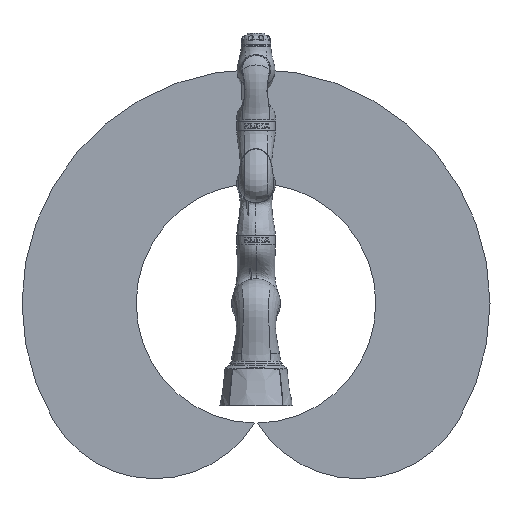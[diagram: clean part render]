
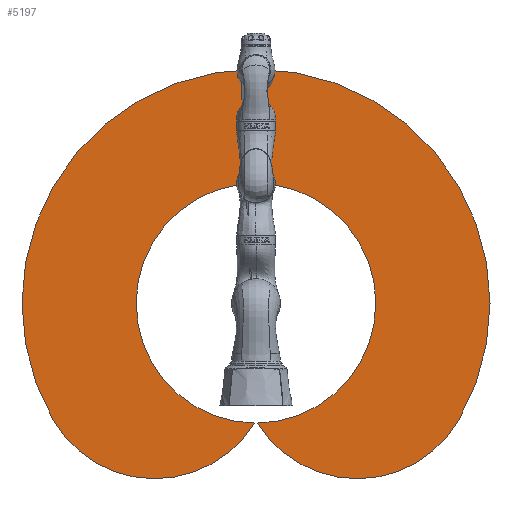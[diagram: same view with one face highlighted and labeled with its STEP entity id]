
A CAD part, front view. The second image highlights one B-rep face of the part: STEP entity #5197.
In plain terms, the highlighted planar face has unit normal (0, -1, 0).
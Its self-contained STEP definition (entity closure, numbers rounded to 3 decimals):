
#2799=PLANE('',#19960);
#3719=FACE_OUTER_BOUND('',#8060,.T.);
#5197=ADVANCED_FACE('',(#3719),#2799,.F.);
#8060=EDGE_LOOP('',(#13011,#13012,#13013,#13014));
#13011=ORIENTED_EDGE('',*,*,#17134,.F.);
#13012=ORIENTED_EDGE('',*,*,#17124,.T.);
#13013=ORIENTED_EDGE('',*,*,#17135,.T.);
#13014=ORIENTED_EDGE('',*,*,#17129,.F.);
#14648=VERTEX_POINT('',#85348);
#14649=VERTEX_POINT('',#85349);
#14652=VERTEX_POINT('',#85357);
#14654=VERTEX_POINT('',#85360);
#17124=EDGE_CURVE('',#14648,#14649,#18101,.T.);
#17129=EDGE_CURVE('',#14652,#14654,#18103,.T.);
#17134=EDGE_CURVE('',#14648,#14652,#18107,.T.);
#17135=EDGE_CURVE('',#14649,#14654,#18108,.T.);
#18101=CIRCLE('',#19949,410.);
#18103=CIRCLE('',#19952,410.);
#18107=CIRCLE('',#19958,419.9);
#18108=CIRCLE('',#19959,820.);
#19949=AXIS2_PLACEMENT_3D('',#85347,#24462,#24463);
#19952=AXIS2_PLACEMENT_3D('',#85359,#24471,#24472);
#19958=AXIS2_PLACEMENT_3D('',#85368,#24484,#24485);
#19959=AXIS2_PLACEMENT_3D('',#85369,#24486,#24487);
#19960=AXIS2_PLACEMENT_3D('',#85370,#24488,#24489);
#24462=DIRECTION('',(0.,-1.,0.));
#24463=DIRECTION('',(1.,0.,0.));
#24471=DIRECTION('',(0.,1.,0.));
#24472=DIRECTION('',(-1.,0.,0.));
#24484=DIRECTION('',(0.,-1.,0.));
#24485=DIRECTION('',(0.,0.,1.));
#24486=DIRECTION('',(0.,-1.,0.));
#24487=DIRECTION('',(1.,0.,0.));
#24488=DIRECTION('',(0.,1.,0.));
#24489=DIRECTION('',(0.,0.,1.));
#85347=CARTESIAN_POINT('',(355.07,-0.5,155.));
#85348=CARTESIAN_POINT('',(5.878,-0.5,-59.859));
#85349=CARTESIAN_POINT('',(710.141,-0.5,-50.));
#85357=CARTESIAN_POINT('',(-5.878,-0.5,-59.859));
#85359=CARTESIAN_POINT('',(-355.07,-0.5,155.));
#85360=CARTESIAN_POINT('',(-710.141,-0.5,-50.));
#85368=CARTESIAN_POINT('',(0.,-0.5,360.));
#85369=CARTESIAN_POINT('',(0.,-0.5,360.));
#85370=CARTESIAN_POINT('',(177.535,-0.5,257.5));
